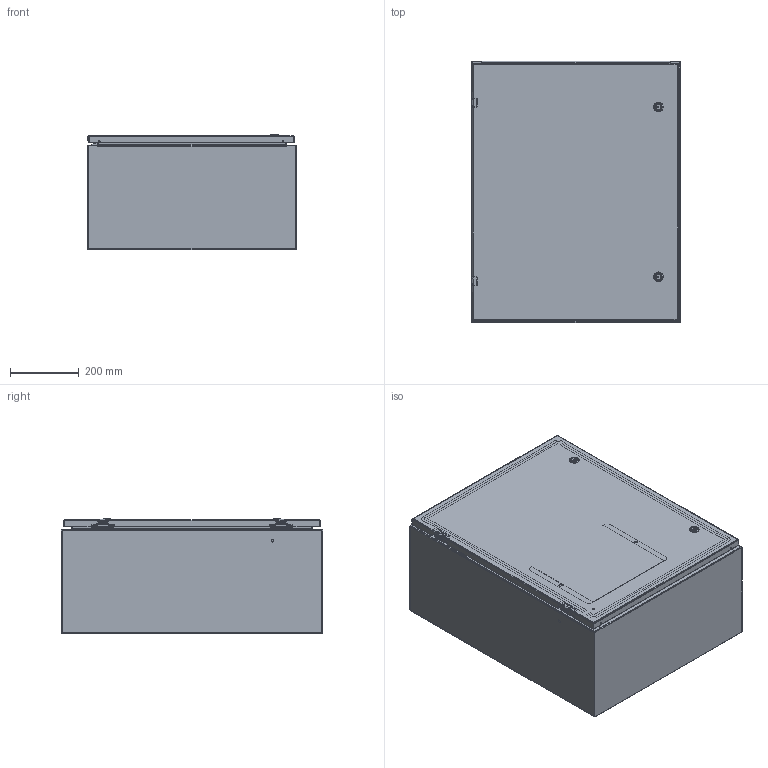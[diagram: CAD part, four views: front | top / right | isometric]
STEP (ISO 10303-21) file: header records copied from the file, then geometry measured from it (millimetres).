
FILE_DESCRIPTION((''),'2;1');
FILE_NAME('MODEL-305_ASM','2025-02-19T08:15:35',('joshi'),('SAGINAW CONTROL & ENGINEERING'),'CREO PARAMETRIC BY PTC INC, 2021284','CREO PARAMETRIC BY PTC INC, 2021284','');
FILE_SCHEMA(('AUTOMOTIVE_DESIGN { 1 0 10303 214 1 1 1 1 }'));
Length unit declared in the file: inch
Products named in the file (29): MODEL-305-BDY; MODEL-305-TP; MODEL-305-BTM; MODEL-305-DR; 100837; 100882; 111267; 100794_SHAFT; 100794_INSERT; 100794_CAM; 100794_NUT; 100794_SCREW; 100794_ASM; MODEL-305-DOOR-GASKET; 126391; 126391_ASM; 126393; 102483; 101226; 101376; 102140; 132757; MODEL-305-DOOR-ASSY_ASM; 101653; 122191; SUBPANEL; 100904; SUBPANEL-SUBASSEMBLY_ASM; MODEL-305_ASM
Assembly tree (50 placements, depth 4):
  MODEL-305_ASM
    MODEL-305-BDY
    MODEL-305-TP
    MODEL-305-BTM
    MODEL-305-DOOR-ASSY_ASM
      MODEL-305-DR
      100837  x3
      100882  x2
      111267
      100794_ASM  x2
        100794_SHAFT
        100794_INSERT
        100794_CAM
        100794_NUT
        100794_SCREW
      MODEL-305-DOOR-GASKET
      126391_ASM  x2
        126391
      126393  x2
      102483  x6
      101226  x2
      101376  x2
      102140  x2
      132757  x2
    100837
    101653  x4
    122191
    SUBPANEL-SUBASSEMBLY_ASM
      SUBPANEL
      100904  x4
Bounding box: 609.6 x 762 x 335.93 mm (x, y, z)
Volume: 5426230.5 mm3; surface area: 5003639 mm2
Topology: 51 solids, 51 shells, 3075 faces, 7792 edges, 4890 vertices
Faces by surface type: plane 1368, cylinder 857, bspline 448, torus 222, cone 124, sphere 56
Entity records: 85749 total; most frequent: CARTESIAN_POINT 24769, ORIENTED_EDGE 8800, DIRECTION 8320, PRESENTATION_STYLE_ASSIGNMENT 4598, EDGE_CURVE 4400, STYLED_ITEM 4323, CURVE_STYLE 4238, AXIS2_PLACEMENT_3D 3046
